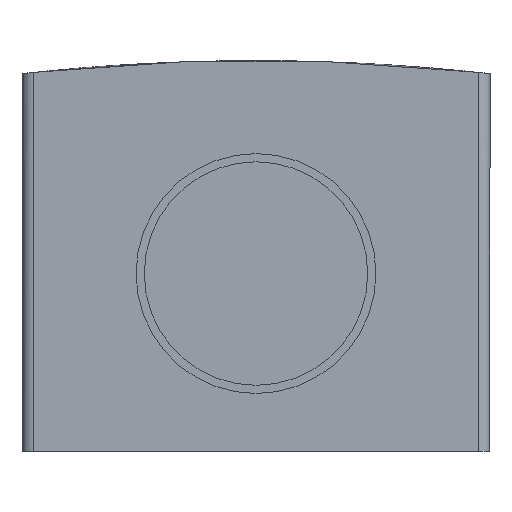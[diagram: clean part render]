
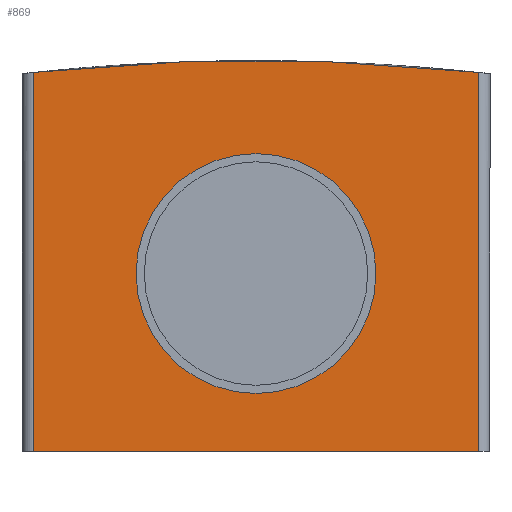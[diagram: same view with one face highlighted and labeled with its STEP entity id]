
A CAD part, front view. The second image highlights one B-rep face of the part: STEP entity #869.
In plain terms, the highlighted planar face has unit normal (0, -1, 0).
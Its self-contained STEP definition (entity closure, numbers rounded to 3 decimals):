
#765 = ORIENTED_EDGE ( 'NONE', *, *, #12235, .T. ) ;
#869 = ADVANCED_FACE ( 'NONE', ( #19458, #12292 ), #10579, .T. ) ;
#1419 = DIRECTION ( 'NONE',  ( 0., -1., 0. ) ) ;
#1470 = EDGE_CURVE ( 'NONE', #18573, #13343, #10137, .T. ) ;
#1594 = CARTESIAN_POINT ( 'NONE',  ( -19., -45.5, -14.25 ) ) ;
#1772 = ORIENTED_EDGE ( 'NONE', *, *, #12926, .F. ) ;
#2593 = LINE ( 'NONE', #15744, #15279 ) ;
#3975 = AXIS2_PLACEMENT_3D ( 'NONE', #6039, #16758, #7589 ) ;
#5320 = CARTESIAN_POINT ( 'NONE',  ( 0., -45.5, 0.95 ) ) ;
#5577 = AXIS2_PLACEMENT_3D ( 'NONE', #5320, #16051, #6867 ) ;
#5947 = EDGE_CURVE ( 'NONE', #7829, #18476, #11599, .T. ) ;
#6039 = CARTESIAN_POINT ( 'NONE',  ( 0., -45.5, 0.95 ) ) ;
#6350 = DIRECTION ( 'NONE',  ( 1., 0., 0. ) ) ;
#6412 = CIRCLE ( 'NONE', #17422, 180. ) ;
#6867 = DIRECTION ( 'NONE',  ( 0., 0., -1. ) ) ;
#7273 = CARTESIAN_POINT ( 'NONE',  ( 19., -45.5, -14.25 ) ) ;
#7495 = VECTOR ( 'NONE', #16464, 1000. ) ;
#7589 = DIRECTION ( 'NONE',  ( 0., 0., -1. ) ) ;
#7829 = VERTEX_POINT ( 'NONE', #7952 ) ;
#7952 = CARTESIAN_POINT ( 'NONE',  ( 19., -45.5, -14.25 ) ) ;
#8449 = VERTEX_POINT ( 'NONE', #12824 ) ;
#8530 = DIRECTION ( 'NONE',  ( 0., -1., 0. ) ) ;
#8743 = CARTESIAN_POINT ( 'NONE',  ( -19., -45.5, -14.25 ) ) ;
#9583 = LINE ( 'NONE', #1594, #13681 ) ;
#9621 = ORIENTED_EDGE ( 'NONE', *, *, #11874, .T. ) ;
#9633 = EDGE_LOOP ( 'NONE', ( #9621, #12022, #765, #17119 ) ) ;
#9959 = EDGE_CURVE ( 'NONE', #10259, #8449, #9583, .T. ) ;
#10137 = CIRCLE ( 'NONE', #5577, 10.25 ) ;
#10193 = CARTESIAN_POINT ( 'NONE',  ( 0., -45.5, 11.2 ) ) ;
#10259 = VERTEX_POINT ( 'NONE', #8743 ) ;
#10524 = CARTESIAN_POINT ( 'NONE',  ( 0., -45.5, -9.3 ) ) ;
#10579 = PLANE ( 'NONE',  #13554 ) ;
#10752 = DIRECTION ( 'NONE',  ( 0., 0., 1. ) ) ;
#11599 = LINE ( 'NONE', #7273, #7495 ) ;
#11874 = EDGE_CURVE ( 'NONE', #18476, #8449, #6412, .T. ) ;
#12022 = ORIENTED_EDGE ( 'NONE', *, *, #9959, .F. ) ;
#12142 = DIRECTION ( 'NONE',  ( 1., 0., 0. ) ) ;
#12235 = EDGE_CURVE ( 'NONE', #10259, #7829, #2593, .T. ) ;
#12292 = FACE_BOUND ( 'NONE', #12303, .T. ) ;
#12303 = EDGE_LOOP ( 'NONE', ( #1772, #14961 ) ) ;
#12824 = CARTESIAN_POINT ( 'NONE',  ( -19., -45.5, 18.144 ) ) ;
#12926 = EDGE_CURVE ( 'NONE', #13343, #18573, #19333, .T. ) ;
#13343 = VERTEX_POINT ( 'NONE', #10524 ) ;
#13554 = AXIS2_PLACEMENT_3D ( 'NONE', #16600, #1419, #12142 ) ;
#13681 = VECTOR ( 'NONE', #10752, 1000. ) ;
#14961 = ORIENTED_EDGE ( 'NONE', *, *, #1470, .F. ) ;
#15279 = VECTOR ( 'NONE', #6350, 1000. ) ;
#15744 = CARTESIAN_POINT ( 'NONE',  ( 19., -45.5, -14.25 ) ) ;
#16051 = DIRECTION ( 'NONE',  ( 0., -1., 0. ) ) ;
#16083 = CARTESIAN_POINT ( 'NONE',  ( 19., -45.5, 18.144 ) ) ;
#16464 = DIRECTION ( 'NONE',  ( 0., 0., 1. ) ) ;
#16600 = CARTESIAN_POINT ( 'NONE',  ( 19., -45.5, -14.25 ) ) ;
#16758 = DIRECTION ( 'NONE',  ( 0., -1., 0. ) ) ;
#17119 = ORIENTED_EDGE ( 'NONE', *, *, #5947, .T. ) ;
#17422 = AXIS2_PLACEMENT_3D ( 'NONE', #17686, #8530, #19219 ) ;
#17686 = CARTESIAN_POINT ( 'NONE',  ( 0., -45.5, -160.85 ) ) ;
#18476 = VERTEX_POINT ( 'NONE', #16083 ) ;
#18573 = VERTEX_POINT ( 'NONE', #10193 ) ;
#19219 = DIRECTION ( 'NONE',  ( 1., 0., 0. ) ) ;
#19333 = CIRCLE ( 'NONE', #3975, 10.25 ) ;
#19458 = FACE_OUTER_BOUND ( 'NONE', #9633, .T. ) ;
